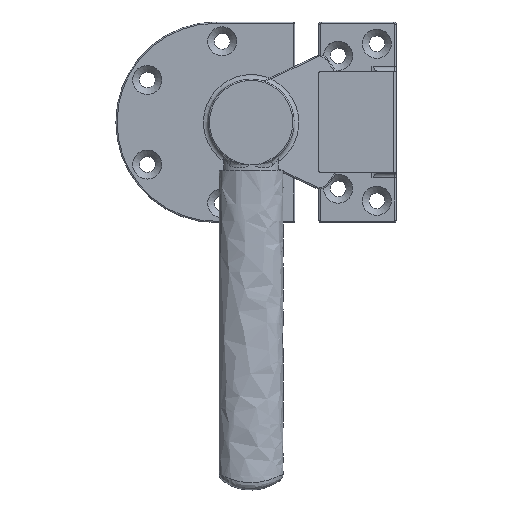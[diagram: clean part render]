
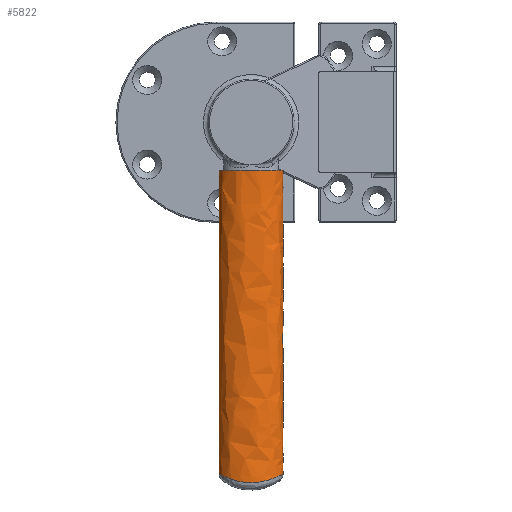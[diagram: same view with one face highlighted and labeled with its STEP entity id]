
A CAD part, top view. The second image highlights one B-rep face of the part: STEP entity #5822.
In plain terms, the highlighted free-form (B-spline) face has degree [3, 1] with [20, 2] control points.
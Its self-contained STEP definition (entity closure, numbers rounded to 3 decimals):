
#162=B_SPLINE_SURFACE_WITH_KNOTS('',3,1,((#12396,#12397),(#12398,#12399),
(#12400,#12401),(#12402,#12403),(#12404,#12405),(#12406,#12407),(#12408,
#12409),(#12410,#12411),(#12412,#12413),(#12414,#12415),(#12416,#12417),
(#12418,#12419),(#12420,#12421),(#12422,#12423),(#12424,#12425),(#12426,
#12427),(#12428,#12429),(#12430,#12431),(#12432,#12433),(#12434,#12435)),
 .UNSPECIFIED.,.T.,.F.,.F.,(4,1,1,1,1,1,1,1,1,1,1,1,1,1,1,1,1,4),(2,2),
(-3.142,-2.917,-2.693,-2.244,
-1.346,-1.047,-0.748,-0.449,
-0.15,0.15,0.449,0.898,
1.346,1.795,2.244,2.693,2.917,
3.142),(0.,15.519),.UNSPECIFIED.);
#535=LINE('',#12437,#846);
#846=VECTOR('',#8068,125.827);
#1357=FACE_OUTER_BOUND('',#1770,.T.);
#1770=EDGE_LOOP('',(#5025,#5026,#5027,#5028));
#2416=B_SPLINE_CURVE_WITH_KNOTS('',3,(#12361,#12362,#12363,#12364,#12365,
#12366,#12367,#12368,#12369,#12370,#12371,#12372,#12373,#12374,#12375,#12376,
#12377,#12378,#12379,#12380,#12381,#12382,#12383,#12384,#12385,#12386,#12387,
#12388,#12389,#12390,#12391,#12392,#12393,#12394,#12395),.UNSPECIFIED.,
 .T.,.F.,(4,1,1,1,1,1,1,1,1,1,1,1,1,1,1,1,1,1,1,1,1,1,1,1,1,1,1,1,1,1,1,
1,4),(-5.847,-5.743,-5.638,-5.43,
-5.012,-4.594,-4.385,-4.177,
-3.759,-3.707,-3.655,-3.55,
-3.446,-3.341,-3.202,-3.063,
-2.993,-2.924,-2.854,-2.784,
-2.715,-2.645,-2.576,-2.506,
-2.367,-2.228,-1.671,-1.253,
-0.835,-0.418,-0.209,-0.104,
0.),.UNSPECIFIED.);
#2417=B_SPLINE_CURVE_WITH_KNOTS('',3,(#12438,#12439,#12440,#12441,#12442,
#12443,#12444,#12445,#12446,#12447,#12448,#12449,#12450,#12451,#12452,#12453,
#12454,#12455,#12456,#12457),.UNSPECIFIED.,.T.,.F.,(4,1,1,1,1,1,1,1,1,1,
1,1,1,1,1,1,1,4),(-3.142,-2.917,-2.693,
-2.244,-1.346,-1.047,-0.748,
-0.449,-0.15,0.15,0.449,
0.898,1.346,1.795,2.244,2.693,
2.917,3.142),.UNSPECIFIED.);
#2784=VERTEX_POINT('',#12261);
#2786=VERTEX_POINT('',#12436);
#3560=EDGE_CURVE('',#2784,#2784,#2416,.T.);
#3561=EDGE_CURVE('',#2784,#2786,#535,.T.);
#3562=EDGE_CURVE('',#2786,#2786,#2417,.F.);
#5025=ORIENTED_EDGE('',*,*,#3560,.F.);
#5026=ORIENTED_EDGE('',*,*,#3561,.T.);
#5027=ORIENTED_EDGE('',*,*,#3562,.F.);
#5028=ORIENTED_EDGE('',*,*,#3561,.F.);
#5822=ADVANCED_FACE('',(#1357),#162,.T.);
#8068=DIRECTION('',(1.,0.,0.));
#12261=CARTESIAN_POINT('',(-145.827,13.25,27.75));
#12361=CARTESIAN_POINT('Ctrl Pts',(-145.827,13.25,27.75));
#12362=CARTESIAN_POINT('Ctrl Pts',(-145.827,13.25,27.063));
#12363=CARTESIAN_POINT('Ctrl Pts',(-145.921,12.967,25.722));
#12364=CARTESIAN_POINT('Ctrl Pts',(-146.336,11.877,23.826));
#12365=CARTESIAN_POINT('Ctrl Pts',(-147.264,9.687,21.813));
#12366=CARTESIAN_POINT('Ctrl Pts',(-148.479,6.389,20.309));
#12367=CARTESIAN_POINT('Ctrl Pts',(-149.148,2.87,19.602));
#12368=CARTESIAN_POINT('Ctrl Pts',(-149.284,0.001,
19.466));
#12369=CARTESIAN_POINT('Ctrl Pts',(-149.149,-2.869,
19.604));
#12370=CARTESIAN_POINT('Ctrl Pts',(-148.712,-5.156,
20.055));
#12371=CARTESIAN_POINT('Ctrl Pts',(-148.226,-6.854,20.641));
#12372=CARTESIAN_POINT('Ctrl Pts',(-148.019,-7.528,
20.899));
#12373=CARTESIAN_POINT('Ctrl Pts',(-147.739,-8.36,
21.269));
#12374=CARTESIAN_POINT('Ctrl Pts',(-147.375,-9.341,
21.802));
#12375=CARTESIAN_POINT('Ctrl Pts',(-146.949,-10.412,22.522));
#12376=CARTESIAN_POINT('Ctrl Pts',(-146.472,-11.559,
23.534));
#12377=CARTESIAN_POINT('Ctrl Pts',(-146.077,-12.544,24.86));
#12378=CARTESIAN_POINT('Ctrl Pts',(-145.867,-13.129,
26.378));
#12379=CARTESIAN_POINT('Ctrl Pts',(-145.806,-13.31,
27.75));
#12380=CARTESIAN_POINT('Ctrl Pts',(-145.867,-13.128,
29.121));
#12381=CARTESIAN_POINT('Ctrl Pts',(-146.024,-12.693,30.26));
#12382=CARTESIAN_POINT('Ctrl Pts',(-146.236,-12.146,
31.17));
#12383=CARTESIAN_POINT('Ctrl Pts',(-146.478,-11.55,31.906));
#12384=CARTESIAN_POINT('Ctrl Pts',(-146.733,-10.933,
32.517));
#12385=CARTESIAN_POINT('Ctrl Pts',(-147.078,-10.092,33.208));
#12386=CARTESIAN_POINT('Ctrl Pts',(-147.502,-9.016,
33.902));
#12387=CARTESIAN_POINT('Ctrl Pts',(-148.442,-6.381,35.183));
#12388=CARTESIAN_POINT('Ctrl Pts',(-149.286,-2.649,
36.025));
#12389=CARTESIAN_POINT('Ctrl Pts',(-149.281,2.166,36.042));
#12390=CARTESIAN_POINT('Ctrl Pts',(-148.479,6.389,35.19));
#12391=CARTESIAN_POINT('Ctrl Pts',(-147.264,9.686,33.687));
#12392=CARTESIAN_POINT('Ctrl Pts',(-146.336,11.877,31.674));
#12393=CARTESIAN_POINT('Ctrl Pts',(-145.921,12.967,29.779));
#12394=CARTESIAN_POINT('Ctrl Pts',(-145.827,13.25,28.437));
#12395=CARTESIAN_POINT('Ctrl Pts',(-145.827,13.25,27.75));
#12396=CARTESIAN_POINT('Ctrl Pts',(-20.,13.25,27.75));
#12397=CARTESIAN_POINT('Ctrl Pts',(-175.191,13.25,27.75));
#12398=CARTESIAN_POINT('Ctrl Pts',(-20.,13.25,27.013));
#12399=CARTESIAN_POINT('Ctrl Pts',(-175.191,13.25,27.013));
#12400=CARTESIAN_POINT('Ctrl Pts',(-20.,12.944,25.543));
#12401=CARTESIAN_POINT('Ctrl Pts',(-175.191,12.944,25.543));
#12402=CARTESIAN_POINT('Ctrl Pts',(-20.,11.325,23.045));
#12403=CARTESIAN_POINT('Ctrl Pts',(-175.191,11.325,23.045));
#12404=CARTESIAN_POINT('Ctrl Pts',(-20.,6.73,19.922));
#12405=CARTESIAN_POINT('Ctrl Pts',(-175.191,6.73,19.922));
#12406=CARTESIAN_POINT('Ctrl Pts',(-20.,-0.437,19.057));
#12407=CARTESIAN_POINT('Ctrl Pts',(-175.191,-0.437,
19.057));
#12408=CARTESIAN_POINT('Ctrl Pts',(-20.,-6.311,20.335));
#12409=CARTESIAN_POINT('Ctrl Pts',(-175.191,-6.311,
20.335));
#12410=CARTESIAN_POINT('Ctrl Pts',(-20.,-9.386,21.687));
#12411=CARTESIAN_POINT('Ctrl Pts',(-175.191,-9.386,
21.687));
#12412=CARTESIAN_POINT('Ctrl Pts',(-20.,-11.795,23.616));
#12413=CARTESIAN_POINT('Ctrl Pts',(-175.191,-11.795,
23.616));
#12414=CARTESIAN_POINT('Ctrl Pts',(-20.,-13.312,26.213));
#12415=CARTESIAN_POINT('Ctrl Pts',(-175.191,-13.312,
26.213));
#12416=CARTESIAN_POINT('Ctrl Pts',(-20.,-13.306,29.284));
#12417=CARTESIAN_POINT('Ctrl Pts',(-175.191,-13.306,
29.284));
#12418=CARTESIAN_POINT('Ctrl Pts',(-20.,-11.54,32.315));
#12419=CARTESIAN_POINT('Ctrl Pts',(-175.191,-11.54,
32.315));
#12420=CARTESIAN_POINT('Ctrl Pts',(-20.,-8.034,34.678));
#12421=CARTESIAN_POINT('Ctrl Pts',(-175.191,-8.034,
34.678));
#12422=CARTESIAN_POINT('Ctrl Pts',(-20.,-2.833,36.06));
#12423=CARTESIAN_POINT('Ctrl Pts',(-175.191,-2.833,
36.06));
#12424=CARTESIAN_POINT('Ctrl Pts',(-20.,2.833,36.057));
#12425=CARTESIAN_POINT('Ctrl Pts',(-175.191,2.833,36.057));
#12426=CARTESIAN_POINT('Ctrl Pts',(-20.,8.033,34.68));
#12427=CARTESIAN_POINT('Ctrl Pts',(-175.191,8.033,34.68));
#12428=CARTESIAN_POINT('Ctrl Pts',(-20.,11.327,32.457));
#12429=CARTESIAN_POINT('Ctrl Pts',(-175.191,11.327,32.457));
#12430=CARTESIAN_POINT('Ctrl Pts',(-20.,12.943,29.956));
#12431=CARTESIAN_POINT('Ctrl Pts',(-175.191,12.943,29.956));
#12432=CARTESIAN_POINT('Ctrl Pts',(-20.,13.25,28.487));
#12433=CARTESIAN_POINT('Ctrl Pts',(-175.191,13.25,28.487));
#12434=CARTESIAN_POINT('Ctrl Pts',(-20.,13.25,27.75));
#12435=CARTESIAN_POINT('Ctrl Pts',(-175.191,13.25,27.75));
#12436=CARTESIAN_POINT('',(-20.,13.25,27.75));
#12437=CARTESIAN_POINT('',(-145.827,13.25,27.75));
#12438=CARTESIAN_POINT('Ctrl Pts',(-20.,13.25,27.75));
#12439=CARTESIAN_POINT('Ctrl Pts',(-20.,13.25,27.013));
#12440=CARTESIAN_POINT('Ctrl Pts',(-20.,12.944,25.543));
#12441=CARTESIAN_POINT('Ctrl Pts',(-20.,11.325,23.045));
#12442=CARTESIAN_POINT('Ctrl Pts',(-20.,6.73,19.922));
#12443=CARTESIAN_POINT('Ctrl Pts',(-20.,-0.437,19.057));
#12444=CARTESIAN_POINT('Ctrl Pts',(-20.,-6.311,20.335));
#12445=CARTESIAN_POINT('Ctrl Pts',(-20.,-9.386,21.687));
#12446=CARTESIAN_POINT('Ctrl Pts',(-20.,-11.795,23.616));
#12447=CARTESIAN_POINT('Ctrl Pts',(-20.,-13.312,26.213));
#12448=CARTESIAN_POINT('Ctrl Pts',(-20.,-13.306,29.284));
#12449=CARTESIAN_POINT('Ctrl Pts',(-20.,-11.54,32.315));
#12450=CARTESIAN_POINT('Ctrl Pts',(-20.,-8.034,34.678));
#12451=CARTESIAN_POINT('Ctrl Pts',(-20.,-2.833,36.06));
#12452=CARTESIAN_POINT('Ctrl Pts',(-20.,2.833,36.057));
#12453=CARTESIAN_POINT('Ctrl Pts',(-20.,8.033,34.68));
#12454=CARTESIAN_POINT('Ctrl Pts',(-20.,11.327,32.457));
#12455=CARTESIAN_POINT('Ctrl Pts',(-20.,12.943,29.956));
#12456=CARTESIAN_POINT('Ctrl Pts',(-20.,13.25,28.487));
#12457=CARTESIAN_POINT('Ctrl Pts',(-20.,13.25,27.75));
